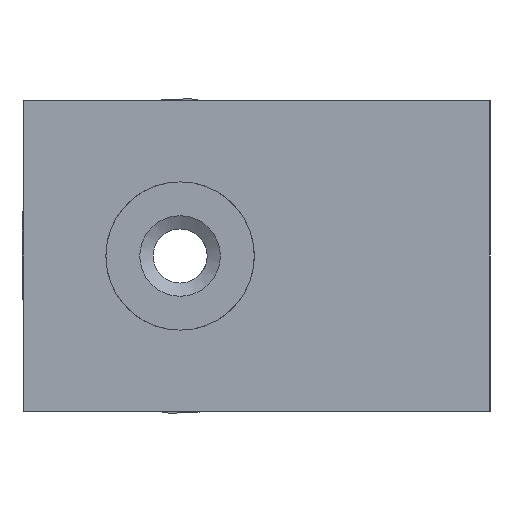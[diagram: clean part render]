
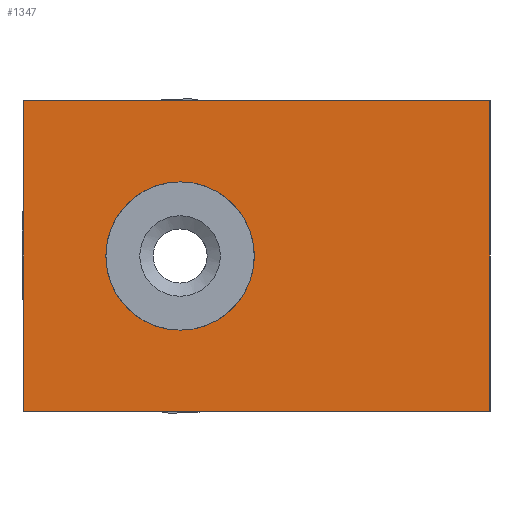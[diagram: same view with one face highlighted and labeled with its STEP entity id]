
A CAD part, left-side view. The second image highlights one B-rep face of the part: STEP entity #1347.
In plain terms, the highlighted planar face has unit normal (-1, 0, 0).
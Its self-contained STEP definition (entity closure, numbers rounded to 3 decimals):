
#5 = LINE ( 'NONE', #97, #292 ) ;
#19 = CARTESIAN_POINT ( 'NONE',  ( 0., 0., -19.84 ) ) ;
#30 = CARTESIAN_POINT ( 'NONE',  ( 0., 0., 19.84 ) ) ;
#35 = EDGE_CURVE ( 'NONE', #271, #1494, #5, .T. ) ;
#42 = PLANE ( 'NONE',  #1015 ) ;
#52 = VECTOR ( 'NONE', #1074, 1000. ) ;
#97 = CARTESIAN_POINT ( 'NONE',  ( 0., 0., 19.84 ) ) ;
#193 = ORIENTED_EDGE ( 'NONE', *, *, #513, .F. ) ;
#212 = ORIENTED_EDGE ( 'NONE', *, *, #35, .F. ) ;
#255 = VECTOR ( 'NONE', #850, 1000. ) ;
#271 = VERTEX_POINT ( 'NONE', #376 ) ;
#272 = EDGE_CURVE ( 'NONE', #843, #843, #1047, .T. ) ;
#292 = VECTOR ( 'NONE', #446, 1000. ) ;
#323 = ORIENTED_EDGE ( 'NONE', *, *, #1152, .T. ) ;
#376 = CARTESIAN_POINT ( 'NONE',  ( 0., 59.6, 19.84 ) ) ;
#446 = DIRECTION ( 'NONE',  ( 0., -1., 0. ) ) ;
#454 = ORIENTED_EDGE ( 'NONE', *, *, #272, .F. ) ;
#513 = EDGE_CURVE ( 'NONE', #1494, #636, #880, .T. ) ;
#583 = VERTEX_POINT ( 'NONE', #1311 ) ;
#631 = DIRECTION ( 'NONE',  ( 0., 0., -1. ) ) ;
#634 = VECTOR ( 'NONE', #1117, 1000. ) ;
#636 = VERTEX_POINT ( 'NONE', #1345 ) ;
#776 = EDGE_CURVE ( 'NONE', #271, #583, #1008, .T. ) ;
#816 = LINE ( 'NONE', #19, #255 ) ;
#843 = VERTEX_POINT ( 'NONE', #1124 ) ;
#850 = DIRECTION ( 'NONE',  ( 0., -1., 0. ) ) ;
#880 = LINE ( 'NONE', #1448, #52 ) ;
#956 = DIRECTION ( 'NONE',  ( 0., 0., -1. ) ) ;
#976 = ORIENTED_EDGE ( 'NONE', *, *, #776, .T. ) ;
#988 = CARTESIAN_POINT ( 'NONE',  ( 0., 59.6, 19.84 ) ) ;
#1008 = LINE ( 'NONE', #988, #634 ) ;
#1015 = AXIS2_PLACEMENT_3D ( 'NONE', #30, #1322, #631 ) ;
#1047 = CIRCLE ( 'NONE', #1339, 9.475 ) ;
#1065 = CARTESIAN_POINT ( 'NONE',  ( 0., 39.6, 0. ) ) ;
#1072 = DIRECTION ( 'NONE',  ( -1., 0., 0. ) ) ;
#1074 = DIRECTION ( 'NONE',  ( 0., 0., -1. ) ) ;
#1117 = DIRECTION ( 'NONE',  ( 0., 0., -1. ) ) ;
#1124 = CARTESIAN_POINT ( 'NONE',  ( 0., 39.6, -9.475 ) ) ;
#1152 = EDGE_CURVE ( 'NONE', #583, #636, #816, .T. ) ;
#1163 = EDGE_LOOP ( 'NONE', ( #323, #193, #212, #976 ) ) ;
#1185 = FACE_OUTER_BOUND ( 'NONE', #1163, .T. ) ;
#1276 = EDGE_LOOP ( 'NONE', ( #454 ) ) ;
#1311 = CARTESIAN_POINT ( 'NONE',  ( 0., 59.6, -19.84 ) ) ;
#1322 = DIRECTION ( 'NONE',  ( 1., 0., 0. ) ) ;
#1339 = AXIS2_PLACEMENT_3D ( 'NONE', #1065, #1072, #956 ) ;
#1345 = CARTESIAN_POINT ( 'NONE',  ( 0., 0., -19.84 ) ) ;
#1347 = ADVANCED_FACE ( 'NONE', ( #1505, #1185 ), #42, .F. ) ;
#1352 = CARTESIAN_POINT ( 'NONE',  ( 0., 0., 19.84 ) ) ;
#1448 = CARTESIAN_POINT ( 'NONE',  ( 0., 0., 19.84 ) ) ;
#1494 = VERTEX_POINT ( 'NONE', #1352 ) ;
#1505 = FACE_BOUND ( 'NONE', #1276, .T. ) ;
